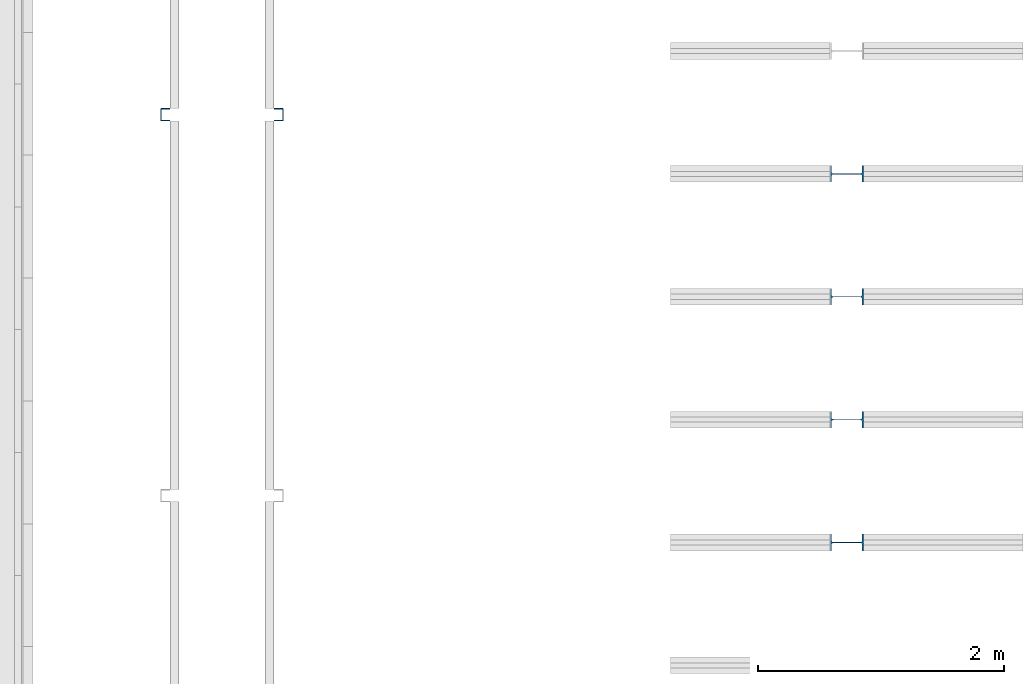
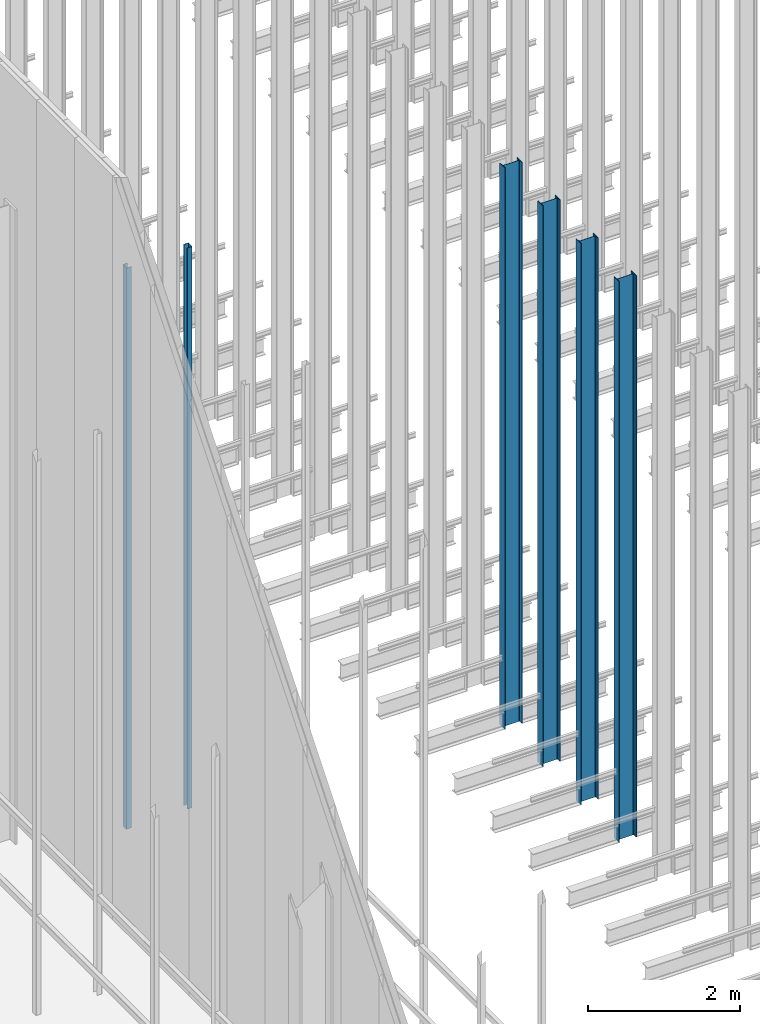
# One storey, part 50 of 302: 6 columns.
"""IFC2X3 building model written with IfcOpenShell, lengths in metres."""

from ifc_helpers import new_model, entity, si_unit, converted_unit, derived_unit, direction, frame, frame_2d, origin, place, context, subcontext, project, spatial, polyline, circle_curve, parameter, trimmed, segment, composite_curve, outline, extrude, source, transform, mapped, material, type_object, type_shapes, element, save


model = new_model("IFC2X3")

# Units and contexts
model_context = context("Model", 3, precision=1e-05, world=origin(), true_north=direction((6.12303176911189e-17, 1.0)))
body_context = subcontext(model_context, "Body", "Model", "MODEL_VIEW")
ifc_project = project(units=[si_unit("LENGTHUNIT", "METRE"), si_unit("AREAUNIT", "SQUARE_METRE"), si_unit("VOLUMEUNIT", "CUBIC_METRE"), converted_unit("PLANEANGLEUNIT", "DEGREE", entity("IfcRatioMeasure", 0.0174532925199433), si_unit("PLANEANGLEUNIT", "RADIAN"), dimensions=[0, 0, 0, 0, 0, 0, 0]), si_unit("MASSUNIT", "GRAM", prefix="KILO"), derived_unit("MASSDENSITYUNIT", [(si_unit("MASSUNIT", "GRAM", prefix="KILO"), 1), (si_unit("LENGTHUNIT", "METRE"), -3)]), derived_unit("MOMENTOFINERTIAUNIT", [(si_unit("LENGTHUNIT", "METRE"), 4)]), si_unit("TIMEUNIT", "SECOND"), si_unit("FREQUENCYUNIT", "HERTZ"), si_unit("THERMODYNAMICTEMPERATUREUNIT", "DEGREE_CELSIUS"), derived_unit("THERMALTRANSMITTANCEUNIT", [(si_unit("MASSUNIT", "GRAM", prefix="KILO"), 1), (si_unit("THERMODYNAMICTEMPERATUREUNIT", "KELVIN"), -1), (si_unit("TIMEUNIT", "SECOND"), -3)]), derived_unit("VOLUMETRICFLOWRATEUNIT", [(si_unit("LENGTHUNIT", "METRE"), 3), (si_unit("TIMEUNIT", "SECOND"), -1)]), si_unit("ELECTRICCURRENTUNIT", "AMPERE"), si_unit("ELECTRICVOLTAGEUNIT", "VOLT"), si_unit("POWERUNIT", "WATT"), si_unit("FORCEUNIT", "NEWTON", prefix="KILO"), si_unit("ILLUMINANCEUNIT", "LUX"), si_unit("LUMINOUSFLUXUNIT", "LUMEN"), si_unit("LUMINOUSINTENSITYUNIT", "CANDELA"), derived_unit("USERDEFINED", [(si_unit("MASSUNIT", "GRAM", prefix="KILO"), -1), (si_unit("LENGTHUNIT", "METRE"), -2), (si_unit("TIMEUNIT", "SECOND"), 3), (si_unit("LUMINOUSFLUXUNIT", "LUMEN"), 1)]), derived_unit("LINEARVELOCITYUNIT", [(si_unit("LENGTHUNIT", "METRE"), 1), (si_unit("TIMEUNIT", "SECOND"), -1)]), si_unit("PRESSUREUNIT", "PASCAL"), derived_unit("USERDEFINED", [(si_unit("LENGTHUNIT", "METRE"), -2), (si_unit("MASSUNIT", "GRAM", prefix="KILO"), 1), (si_unit("TIMEUNIT", "SECOND"), -2)]), derived_unit("LINEARFORCEUNIT", [(si_unit("MASSUNIT", "GRAM", prefix="KILO"), 1), (si_unit("LENGTHUNIT", "METRE"), 1), (si_unit("TIMEUNIT", "SECOND"), -2), (si_unit("LENGTHUNIT", "METRE"), -1)]), derived_unit("PLANARFORCEUNIT", [(si_unit("MASSUNIT", "GRAM", prefix="KILO"), 1), (si_unit("LENGTHUNIT", "METRE"), 1), (si_unit("TIMEUNIT", "SECOND"), -2), (si_unit("LENGTHUNIT", "METRE"), -2)])], contexts=[model_context])

# Site, building, storey
site_placement = place(None, origin())
site = spatial("IfcSite", under=ifc_project, at=site_placement, Name="Default", CompositionType="ELEMENT")
building_placement = place(site_placement, origin())
building = spatial("IfcBuilding", under=site, at=building_placement, CompositionType="ELEMENT")
storey_placement = place(building_placement, frame((0.0, 0.0, -1.3)))
storey = spatial("IfcBuildingStorey", under=building, at=storey_placement, Name="00_EG", CompositionType="ELEMENT", Elevation=-1.3)

# Columns
ifc_material = material(Name="Metall - Baustahl S235")
column_type_1 = type_object("IfcColumnType", Name="Leichter Stahl Schlossschrauben Stütze:C 100", PredefinedType="COLUMN", material=ifc_material)
shared_shape_1 = source(origin(), body_context, "Body", "SweptSolid", [
    extrude(outline(composite_curve([segment(polyline([(-0.0469749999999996, -0.0499999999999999), (0.0214500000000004, -0.0499999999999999)]), True, "CONTINUOUS"), segment(trimmed(circle_curve(frame_2d((0.0214500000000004, -0.0434249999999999), x_axis=(0.0, -1.0)), 0.00657500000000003), [parameter(0.0)], [parameter(89.9999999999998)], True, "PARAMETER"), True, "CONTINUOUS"), segment(polyline([(0.0280250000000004, -0.0434249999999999), (0.0280250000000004, 0.0434250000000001)]), True, "CONTINUOUS"), segment(trimmed(circle_curve(frame_2d((0.0214500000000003, 0.0434250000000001), x_axis=(1.0, 0.0)), 0.0065750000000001), [parameter(0.0)], [parameter(89.9999999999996)], True, "PARAMETER"), True, "CONTINUOUS"), segment(polyline([(0.0214500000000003, 0.0500000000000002), (-0.0469750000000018, 0.0500000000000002)]), True, "CONTINUOUS"), segment(polyline([(-0.0469750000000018, 0.0500000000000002), (-0.0469750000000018, 0.0450000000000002)]), True, "CONTINUOUS"), segment(polyline([(-0.0469750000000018, 0.0450000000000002), (0.0214500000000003, 0.0450000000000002)]), True, "CONTINUOUS"), segment(trimmed(circle_curve(frame_2d((0.0214500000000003, 0.0434249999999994), x_axis=(0.0, 1.0)), 0.00157500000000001), [parameter(269.999999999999)], [parameter(0.0)], True, "PARAMETER"), False, "CONTINUOUS"), segment(polyline([(0.0230250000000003, 0.0434249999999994), (0.0230250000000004, -0.0434249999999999)]), True, "CONTINUOUS"), segment(trimmed(circle_curve(frame_2d((0.0214500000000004, -0.0434249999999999), x_axis=(1.0, 0.0)), 0.00157500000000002), [parameter(270.0)], [parameter(0.0)], True, "PARAMETER"), False, "CONTINUOUS"), segment(polyline([(0.0214500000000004, -0.0449999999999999), (-0.0469749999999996, -0.0449999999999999)]), True, "CONTINUOUS"), segment(polyline([(-0.0469749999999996, -0.0449999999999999), (-0.0469749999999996, -0.0499999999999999)]), True, "CONTINUOUS")], self_intersect=False)), frame((0.0499999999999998, 0.0280250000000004, -0.0300000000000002), z_axis=(0.0, 0.0, 1.0), x_axis=(0.0, -1.0, 0.0)), (0.0, 0.0, 1.0), 9.0),
])
type_shapes(column_type_1, [shared_shape_1])
column_1_placement = place(storey_placement, frame((-176.230111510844, 39.5480889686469, 1.3), z_axis=(0.0, 0.0, 1.0), x_axis=(0.0, -1.0, 0.0)))
element("IfcColumn", 1, at=column_1_placement, inside=storey, type_object=column_type_1, material=ifc_material, Name="Leichter Stahl Schlossschrauben Stütze:C 100", ObjectType="Leichter Stahl Schlossschrauben Stütze:C 100", context=body_context, shape_type="MappedRepresentation", body=[
    mapped(shared_shape_1, transform((0.0, 0.0, 0.0), scale=1.0)),
])
column_type_2 = type_object("IfcColumnType", Name="Leichter Stahl Schlossschrauben Stütze:C 100", PredefinedType="COLUMN", material=ifc_material)
shared_shape_2 = source(origin(), body_context, "Body", "SweptSolid", [
    extrude(outline(composite_curve([segment(polyline([(-0.0214500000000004, -0.0499999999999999), (0.0469749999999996, -0.0499999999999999)]), True, "CONTINUOUS"), segment(polyline([(0.0469749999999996, -0.0499999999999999), (0.0469749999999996, -0.0449999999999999)]), True, "CONTINUOUS"), segment(polyline([(0.0469749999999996, -0.0449999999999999), (-0.0214500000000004, -0.045)]), True, "CONTINUOUS"), segment(trimmed(circle_curve(frame_2d((-0.0214500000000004, -0.043425), x_axis=(0.0, -1.0)), 0.00157500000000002), [parameter(270.0)], [parameter(0.0)], True, "PARAMETER"), False, "CONTINUOUS"), segment(polyline([(-0.0230250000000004, -0.0434249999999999), (-0.0230250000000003, 0.0434249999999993)]), True, "CONTINUOUS"), segment(trimmed(circle_curve(frame_2d((-0.0214500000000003, 0.0434249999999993), x_axis=(-1.0, 0.0)), 0.00157500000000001), [parameter(269.999999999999)], [parameter(0.0)], True, "PARAMETER"), False, "CONTINUOUS"), segment(polyline([(-0.0214500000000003, 0.0450000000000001), (0.0469750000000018, 0.0450000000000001)]), True, "CONTINUOUS"), segment(polyline([(0.0469750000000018, 0.0450000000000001), (0.0469750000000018, 0.0500000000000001)]), True, "CONTINUOUS"), segment(polyline([(0.0469750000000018, 0.0500000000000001), (-0.0214500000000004, 0.0500000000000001)]), True, "CONTINUOUS"), segment(trimmed(circle_curve(frame_2d((-0.0214500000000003, 0.043425), x_axis=(0.0, 1.0)), 0.0065750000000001), [parameter(0.0)], [parameter(89.9999999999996)], True, "PARAMETER"), True, "CONTINUOUS"), segment(polyline([(-0.0280250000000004, 0.043425), (-0.0280250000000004, -0.043425)]), True, "CONTINUOUS"), segment(trimmed(circle_curve(frame_2d((-0.0214500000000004, -0.0434249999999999), x_axis=(-1.0, 0.0)), 0.00657500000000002), [parameter(0.0)], [parameter(89.9999999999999)], True, "PARAMETER"), True, "CONTINUOUS")], self_intersect=False)), frame((0.0499999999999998, -0.0280250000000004, -0.0300000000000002), z_axis=(0.0, 0.0, 1.0), x_axis=(0.0, -1.0, 0.0)), (0.0, 0.0, 1.0), 9.0),
])
type_shapes(column_type_2, [shared_shape_2])
column_2_placement = place(storey_placement, frame((-175.230111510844, 39.5480889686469, 1.3), z_axis=(0.0, 0.0, 1.0), x_axis=(0.0, -1.0, 0.0)))
element("IfcColumn", 2, at=column_2_placement, inside=storey, type_object=column_type_2, material=ifc_material, Name="Leichter Stahl Schlossschrauben Stütze:C 100", ObjectType="Leichter Stahl Schlossschrauben Stütze:C 100", context=body_context, shape_type="MappedRepresentation", body=[
    mapped(shared_shape_2, transform((0.0, 0.0, 0.0), scale=1.0)),
])
column_type_3 = type_object("IfcColumnType", Name="IPE Stütze:IPE 270", PredefinedType="COLUMN", material=ifc_material)
shared_shape_3 = source(origin(), body_context, "Body", "SweptSolid", [
    extrude(outline(composite_curve([segment(polyline([(0.1248, -0.0675), (0.135, -0.0675)]), True, "CONTINUOUS"), segment(polyline([(0.135, -0.0675), (0.135, 0.0675)]), True, "CONTINUOUS"), segment(polyline([(0.135, 0.0675), (0.1248, 0.0675)]), True, "CONTINUOUS"), segment(polyline([(0.1248, 0.0675), (0.1248, 0.0183)]), True, "CONTINUOUS"), segment(trimmed(circle_curve(frame_2d((0.1098, 0.0183), x_axis=(1.0, 0.0)), 0.015), [parameter(270.0)], [parameter(0.0)], True, "PARAMETER"), False, "CONTINUOUS"), segment(polyline([(0.1098, 0.0033), (-0.1098, 0.0033)]), True, "CONTINUOUS"), segment(trimmed(circle_curve(frame_2d((-0.1098, 0.0183), x_axis=(0.0, -1.0)), 0.015), [parameter(270.0)], [parameter(0.0)], True, "PARAMETER"), False, "CONTINUOUS"), segment(polyline([(-0.1248, 0.0183), (-0.1248, 0.0675)]), True, "CONTINUOUS"), segment(polyline([(-0.1248, 0.0675), (-0.135, 0.0675)]), True, "CONTINUOUS"), segment(polyline([(-0.135, 0.0675), (-0.135, -0.0675)]), True, "CONTINUOUS"), segment(polyline([(-0.135, -0.0675), (-0.1248, -0.0675)]), True, "CONTINUOUS"), segment(polyline([(-0.1248, -0.0675), (-0.1248, -0.0183)]), True, "CONTINUOUS"), segment(trimmed(circle_curve(frame_2d((-0.1098, -0.0183), x_axis=(-1.0, 0.0)), 0.015), [parameter(269.999999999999)], [parameter(0.0)], True, "PARAMETER"), False, "CONTINUOUS"), segment(polyline([(-0.1098, -0.0033), (0.1098, -0.0033)]), True, "CONTINUOUS"), segment(trimmed(circle_curve(frame_2d((0.1098, -0.0183), x_axis=(0.0, 1.0)), 0.015), [parameter(270.0)], [parameter(0.0)], True, "PARAMETER"), False, "CONTINUOUS"), segment(polyline([(0.1248, -0.0183), (0.1248, -0.0675)]), True, "CONTINUOUS")], self_intersect=False)), frame((0.0, 0.0, -0.0300000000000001), z_axis=(0.0, 0.0, 1.0), x_axis=(0.0, -1.0, 0.0)), (0.0, 0.0, 1.0), 9.0),
])
type_shapes(column_type_3, [shared_shape_3])
for number, where, z_axis, x_axis in (
    (3, (-170.645111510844, 39.015588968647, 1.3), (0.0, 0.0, 1.0), (0.0, 1.0, 0.0)),
    (4, (-170.645111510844, 38.015588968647, 1.3), (0.0, 0.0, 1.0), (0.0, 1.0, 0.0)),
    (5, (-170.645111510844, 37.015588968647, 1.3), (0.0, 0.0, 1.0), (0.0, 1.0, 0.0)),
    (6, (-170.645111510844, 36.015588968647, 1.3), (0.0, 0.0, 1.0), (0.0, 1.0, 0.0)),
):
    element("IfcColumn", number, at=place(storey_placement, frame(where, z_axis=z_axis, x_axis=x_axis)), inside=storey, type_object=column_type_3, material=ifc_material, Name="IPE Stütze:IPE 270", ObjectType="IPE Stütze:IPE 270", context=body_context, shape_type="MappedRepresentation", body=[
        mapped(shared_shape_3, transform((0.0, 0.0, 0.0), scale=1.0)),
    ])

save(model, "model.ifc")
